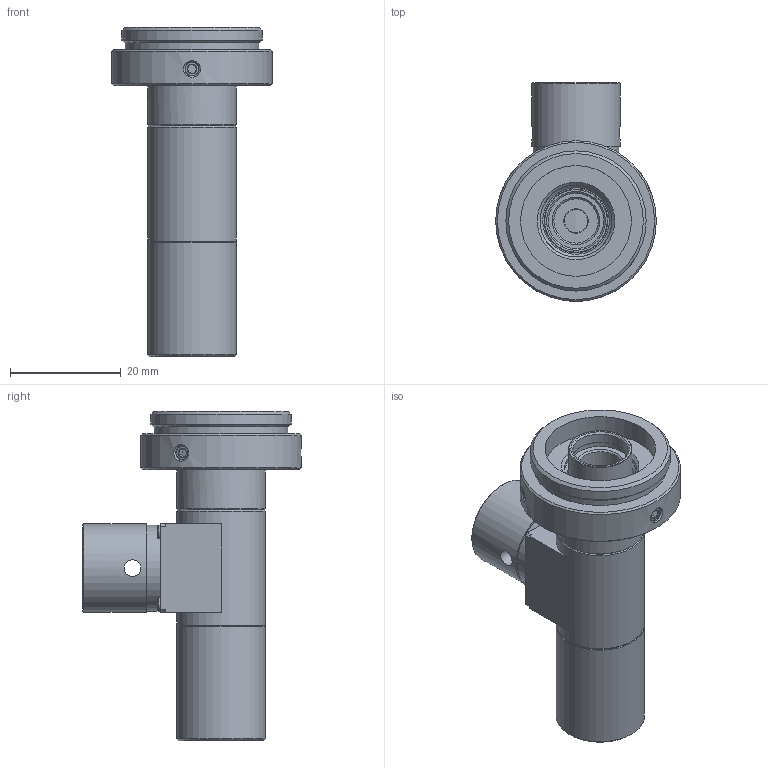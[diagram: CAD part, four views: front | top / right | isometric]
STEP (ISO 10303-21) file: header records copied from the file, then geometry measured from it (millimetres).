
FILE_DESCRIPTION(('STEP AP214'),'1');
FILE_NAME('RTK-1.5F-65.stp','2026-03-16T03:28:52',(' '),(' '),'Spatial InterOp 3D',' ',' ');
FILE_SCHEMA(('AUTOMOTIVE_DESIGN { 1 0 10303 214 1 1 1 1 }'));
Length unit declared in the file: metre
Products named in the file (2): RTK-1.5F-65; Component1
Assembly tree (1 placements, depth 2):
  RTK-1.5F-65
    Component1
Bounding box: 29 x 39.5 x 59.44 mm (x, y, z)
Volume: 12045.6 mm3; surface area: 10914 mm2
Topology: 1 solids, 14 shells, 340 faces, 820 edges, 527 vertices
Faces by surface type: plane 156, cone 93, cylinder 74, torus 8, sphere 6, bspline 3
Full cylindrical faces by diameter (mm): 1.7 x8, 1.8 x4, 2.5 x6, 3 x2, 4.2 x1, 6.5 x1, 8 x3, 8.5 x1, 9 x1, 9.4 x1, 10 x2, 10.033 x1, 10.48 x1, 11.5 x1, 12 x3, 12.7 x1, 13 x3, 13.5 x2, 13.7 x1, 13.9 x1, 14 x3, 14.2 x3, 14.7 x1, 15.5 x1, 16 x6, 20 x1, 24.12 x1, 25.32 x1, 29 x1
Entity records: 12302 total; most frequent: CARTESIAN_POINT 2282, DIRECTION 1568, ORIENTED_EDGE 1272, AXIS2_PLACEMENT_3D 677, EDGE_CURVE 636, EDGE_LOOP 528, VERTEX_POINT 476, FACE_OUTER_BOUND 413
